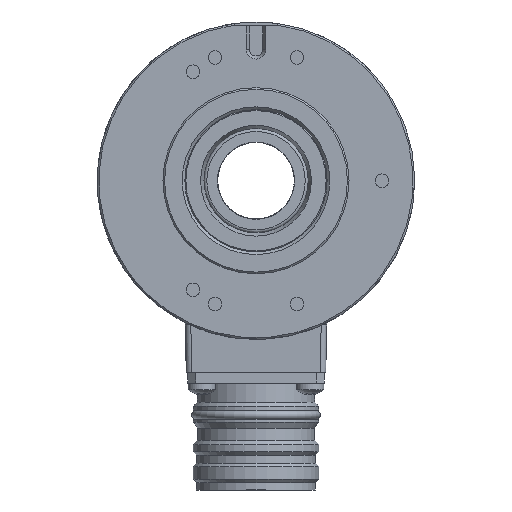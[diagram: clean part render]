
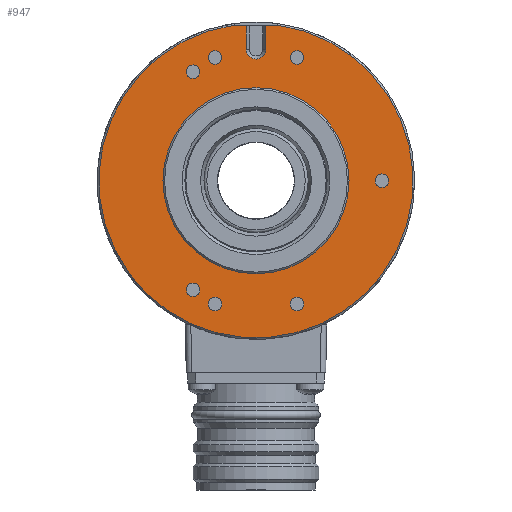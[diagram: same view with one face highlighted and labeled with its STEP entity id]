
A CAD part, left-side view. The second image highlights one B-rep face of the part: STEP entity #947.
In plain terms, the highlighted planar face has unit normal (-1, 0, 0).
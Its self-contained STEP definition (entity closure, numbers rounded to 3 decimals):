
#947 = ADVANCED_FACE( '', ( #2592, #2593, #2594, #2595, #2596, #2597, #2598, #2599, #2600 ), #2601, .T. );
#2592 = FACE_OUTER_BOUND( '', #5868, .T. );
#2593 = FACE_BOUND( '', #5869, .T. );
#2594 = FACE_BOUND( '', #5870, .T. );
#2595 = FACE_BOUND( '', #5871, .T. );
#2596 = FACE_BOUND( '', #5872, .T. );
#2597 = FACE_BOUND( '', #5873, .T. );
#2598 = FACE_BOUND( '', #5874, .T. );
#2599 = FACE_BOUND( '', #5875, .T. );
#2600 = FACE_BOUND( '', #5876, .T. );
#2601 = PLANE( '', #5877 );
#5868 = EDGE_LOOP( '', ( #14381, #14382, #14383, #14384, #14385, #14386, #14387, #14388 ) );
#5869 = EDGE_LOOP( '', ( #14389 ) );
#5870 = EDGE_LOOP( '', ( #14390 ) );
#5871 = EDGE_LOOP( '', ( #14391 ) );
#5872 = EDGE_LOOP( '', ( #14392 ) );
#5873 = EDGE_LOOP( '', ( #14393 ) );
#5874 = EDGE_LOOP( '', ( #14394 ) );
#5875 = EDGE_LOOP( '', ( #14395 ) );
#5876 = EDGE_LOOP( '', ( #14396 ) );
#5877 = AXIS2_PLACEMENT_3D( '', #14397, #14398, #14399 );
#14381 = ORIENTED_EDGE( '', *, *, #20516, .T. );
#14382 = ORIENTED_EDGE( '', *, *, #20517, .T. );
#14383 = ORIENTED_EDGE( '', *, *, #20518, .F. );
#14384 = ORIENTED_EDGE( '', *, *, #20519, .F. );
#14385 = ORIENTED_EDGE( '', *, *, #20520, .F. );
#14386 = ORIENTED_EDGE( '', *, *, #20521, .T. );
#14387 = ORIENTED_EDGE( '', *, *, #20522, .T. );
#14388 = ORIENTED_EDGE( '', *, *, #20523, .T. );
#14389 = ORIENTED_EDGE( '', *, *, #20524, .F. );
#14390 = ORIENTED_EDGE( '', *, *, #20525, .T. );
#14391 = ORIENTED_EDGE( '', *, *, #20526, .T. );
#14392 = ORIENTED_EDGE( '', *, *, #20527, .T. );
#14393 = ORIENTED_EDGE( '', *, *, #20528, .T. );
#14394 = ORIENTED_EDGE( '', *, *, #20529, .T. );
#14395 = ORIENTED_EDGE( '', *, *, #20530, .T. );
#14396 = ORIENTED_EDGE( '', *, *, #20531, .T. );
#14397 = CARTESIAN_POINT( '', ( 4.5, -0.002, 25.897 ) );
#14398 = DIRECTION( '', ( -1., 0., 0. ) );
#14399 = DIRECTION( '', ( 0., 1., 0. ) );
#20516 = EDGE_CURVE( '', #23144, #23145, #23146, .T. );
#20517 = EDGE_CURVE( '', #23145, #23147, #23148, .T. );
#20518 = EDGE_CURVE( '', #23149, #23147, #23150, .T. );
#20519 = EDGE_CURVE( '', #23151, #23149, #23152, .T. );
#20520 = EDGE_CURVE( '', #23153, #23151, #23154, .T. );
#20521 = EDGE_CURVE( '', #23153, #23155, #23156, .T. );
#20522 = EDGE_CURVE( '', #23155, #23157, #23158, .T. );
#20523 = EDGE_CURVE( '', #23157, #23144, #23159, .T. );
#20524 = EDGE_CURVE( '', #23160, #23160, #23161, .T. );
#20525 = EDGE_CURVE( '', #23162, #23162, #23163, .T. );
#20526 = EDGE_CURVE( '', #23164, #23164, #23165, .T. );
#20527 = EDGE_CURVE( '', #23166, #23166, #23167, .T. );
#20528 = EDGE_CURVE( '', #23168, #23168, #23169, .T. );
#20529 = EDGE_CURVE( '', #23170, #23170, #23171, .T. );
#20530 = EDGE_CURVE( '', #23172, #23172, #23173, .T. );
#20531 = EDGE_CURVE( '', #23174, #23174, #23175, .T. );
#23144 = VERTEX_POINT( '', #30195 );
#23145 = VERTEX_POINT( '', #30196 );
#23146 = LINE( '', #30197, #30198 );
#23147 = VERTEX_POINT( '', #30199 );
#23148 = LINE( '', #30200, #30201 );
#23149 = VERTEX_POINT( '', #30202 );
#23150 = LINE( '', #30203, #30204 );
#23151 = VERTEX_POINT( '', #30205 );
#23152 = CIRCLE( '', #30206, 1.78 );
#23153 = VERTEX_POINT( '', #30207 );
#23154 = LINE( '', #30208, #30209 );
#23155 = VERTEX_POINT( '', #30210 );
#23156 = LINE( '', #30211, #30212 );
#23157 = VERTEX_POINT( '', #30213 );
#23158 = LINE( '', #30214, #30215 );
#23159 = CIRCLE( '', #30216, 28.7 );
#23160 = VERTEX_POINT( '', #30217 );
#23161 = CIRCLE( '', #30218, 17. );
#23162 = VERTEX_POINT( '', #30219 );
#23163 = CIRCLE( '', #30220, 1.23 );
#23164 = VERTEX_POINT( '', #30221 );
#23165 = CIRCLE( '', #30222, 1.23 );
#23166 = VERTEX_POINT( '', #30223 );
#23167 = CIRCLE( '', #30224, 1.23 );
#23168 = VERTEX_POINT( '', #30225 );
#23169 = CIRCLE( '', #30226, 1.23 );
#23170 = VERTEX_POINT( '', #30227 );
#23171 = CIRCLE( '', #30228, 1.23 );
#23172 = VERTEX_POINT( '', #30229 );
#23173 = CIRCLE( '', #30230, 1.23 );
#23174 = VERTEX_POINT( '', #30231 );
#23175 = CIRCLE( '', #30232, 1.23 );
#30195 = CARTESIAN_POINT( '', ( 4.5, -4., 28.42 ) );
#30196 = CARTESIAN_POINT( '', ( 4.5, -4., 28.297 ) );
#30197 = CARTESIAN_POINT( '', ( 4.5, -4., 20.25 ) );
#30198 = VECTOR( '', #49468, 1000. );
#30199 = CARTESIAN_POINT( '', ( 4.5, -1.782, 28.297 ) );
#30200 = CARTESIAN_POINT( '', ( 4.5, -4.102, 28.297 ) );
#30201 = VECTOR( '', #49469, 1000. );
#30202 = CARTESIAN_POINT( '', ( 4.5, -1.782, 23.997 ) );
#30203 = CARTESIAN_POINT( '', ( 4.5, -1.782, 25.897 ) );
#30204 = VECTOR( '', #49470, 1000. );
#30205 = CARTESIAN_POINT( '', ( 4.5, 1.778, 23.997 ) );
#30206 = AXIS2_PLACEMENT_3D( '', #49471, #49472, #49473 );
#30207 = CARTESIAN_POINT( '', ( 4.5, 1.778, 28.297 ) );
#30208 = CARTESIAN_POINT( '', ( 4.5, 1.778, 25.897 ) );
#30209 = VECTOR( '', #49474, 1000. );
#30210 = CARTESIAN_POINT( '', ( 4.5, 4., 28.297 ) );
#30211 = CARTESIAN_POINT( '', ( 4.5, -4.102, 28.297 ) );
#30212 = VECTOR( '', #49475, 1000. );
#30213 = CARTESIAN_POINT( '', ( 4.5, 4., 28.42 ) );
#30214 = CARTESIAN_POINT( '', ( 4.5, 4., 20.25 ) );
#30215 = VECTOR( '', #49476, 1000. );
#30216 = AXIS2_PLACEMENT_3D( '', #49477, #49478, #49479 );
#30217 = CARTESIAN_POINT( '', ( 4.5, -14.722, 8.5 ) );
#30218 = AXIS2_PLACEMENT_3D( '', #49480, #49481, #49482 );
#30219 = CARTESIAN_POINT( '', ( 4.5, -8.565, 23.115 ) );
#30220 = AXIS2_PLACEMENT_3D( '', #49483, #49484, #49485 );
#30221 = CARTESIAN_POINT( '', ( 4.5, 6.435, 23.115 ) );
#30222 = AXIS2_PLACEMENT_3D( '', #49486, #49487, #49488 );
#30223 = CARTESIAN_POINT( '', ( 4.5, 10.435, 20.534 ) );
#30224 = AXIS2_PLACEMENT_3D( '', #49489, #49490, #49491 );
#30225 = CARTESIAN_POINT( '', ( 4.5, -24.065, 0.615 ) );
#30226 = AXIS2_PLACEMENT_3D( '', #49492, #49493, #49494 );
#30227 = CARTESIAN_POINT( '', ( 4.5, -8.565, -21.885 ) );
#30228 = AXIS2_PLACEMENT_3D( '', #49495, #49496, #49497 );
#30229 = CARTESIAN_POINT( '', ( 4.5, 6.435, -21.885 ) );
#30230 = AXIS2_PLACEMENT_3D( '', #49498, #49499, #49500 );
#30231 = CARTESIAN_POINT( '', ( 4.5, 10.435, -19.304 ) );
#30232 = AXIS2_PLACEMENT_3D( '', #49501, #49502, #49503 );
#49468 = DIRECTION( '', ( 0., 0., -1. ) );
#49469 = DIRECTION( '', ( 0., 1., 0. ) );
#49470 = DIRECTION( '', ( 0., 0., 1. ) );
#49471 = CARTESIAN_POINT( '', ( 4.5, -0.002, 23.997 ) );
#49472 = DIRECTION( '', ( -1., 0., 0. ) );
#49473 = DIRECTION( '', ( 0., 1., 0. ) );
#49474 = DIRECTION( '', ( 0., 0., -1. ) );
#49475 = DIRECTION( '', ( 0., 1., 0. ) );
#49476 = DIRECTION( '', ( 0., 0., 1. ) );
#49477 = CARTESIAN_POINT( '', ( 4.5, 0., 0. ) );
#49478 = DIRECTION( '', ( -1., 0., 0. ) );
#49479 = DIRECTION( '', ( 0., -0.866, 0.5 ) );
#49480 = CARTESIAN_POINT( '', ( 4.5, 0., 0. ) );
#49481 = DIRECTION( '', ( -1., 0., 0. ) );
#49482 = DIRECTION( '', ( 0., -0.866, 0.5 ) );
#49483 = CARTESIAN_POINT( '', ( 4.5, -7.5, 22.5 ) );
#49484 = DIRECTION( '', ( 1., 0., 0. ) );
#49485 = DIRECTION( '', ( 0., -0.866, 0.5 ) );
#49486 = CARTESIAN_POINT( '', ( 4.5, 7.5, 22.5 ) );
#49487 = DIRECTION( '', ( 1., 0., 0. ) );
#49488 = DIRECTION( '', ( 0., -0.866, 0.5 ) );
#49489 = CARTESIAN_POINT( '', ( 4.5, 11.5, 19.919 ) );
#49490 = DIRECTION( '', ( 1., 0., 0. ) );
#49491 = DIRECTION( '', ( 0., -0.866, 0.5 ) );
#49492 = CARTESIAN_POINT( '', ( 4.5, -23., 0. ) );
#49493 = DIRECTION( '', ( 1., 0., 0. ) );
#49494 = DIRECTION( '', ( 0., -0.866, 0.5 ) );
#49495 = CARTESIAN_POINT( '', ( 4.5, -7.5, -22.5 ) );
#49496 = DIRECTION( '', ( 1., 0., 0. ) );
#49497 = DIRECTION( '', ( 0., -0.866, 0.5 ) );
#49498 = CARTESIAN_POINT( '', ( 4.5, 7.5, -22.5 ) );
#49499 = DIRECTION( '', ( 1., 0., 0. ) );
#49500 = DIRECTION( '', ( 0., -0.866, 0.5 ) );
#49501 = CARTESIAN_POINT( '', ( 4.5, 11.5, -19.919 ) );
#49502 = DIRECTION( '', ( 1., 0., 0. ) );
#49503 = DIRECTION( '', ( 0., -0.866, 0.5 ) );
